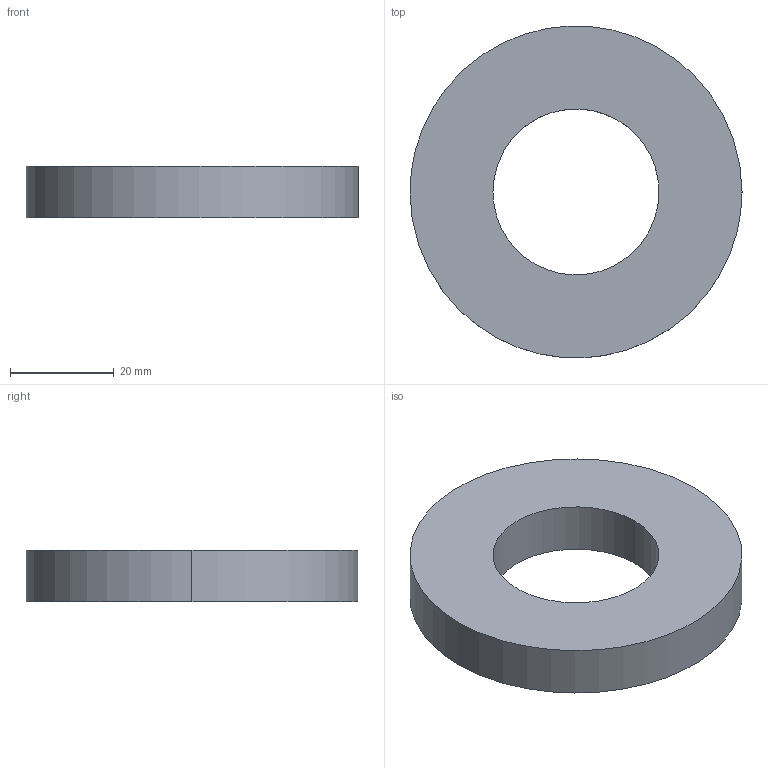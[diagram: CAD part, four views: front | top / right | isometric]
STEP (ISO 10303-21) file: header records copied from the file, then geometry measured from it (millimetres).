
FILE_DESCRIPTION(/* description */ (''),/* implementation_level */ '2;1');
FILE_NAME(/* name */ 'Washer',/* time_stamp */ '2019-03-31T22:05:20-04:00',/* author */ (''),/* organization */ (''),/* preprocessor_version */ 'ST-DEVELOPER v15',/* originating_system */ '',/* authorisation */ '');
FILE_SCHEMA (('AUTOMOTIVE_DESIGN'));
Length unit declared in the file: millimetre
Products named in the file (1): Document
Bounding box: 64 x 63.94 x 10 mm (x, y, z)
Volume: 24185.4 mm3; surface area: 7845 mm2
Topology: 1 solids, 1 shells, 6 faces, 12 edges, 8 vertices
Faces by surface type: bspline 4, plane 2
Entity records: 206 total; most frequent: CARTESIAN_POINT 100, ORIENTED_EDGE 24, EDGE_CURVE 12, EDGE_LOOP 8, VERTEX_POINT 8, ADVANCED_FACE 6, FACE_OUTER_BOUND 6, DIRECTION 6
